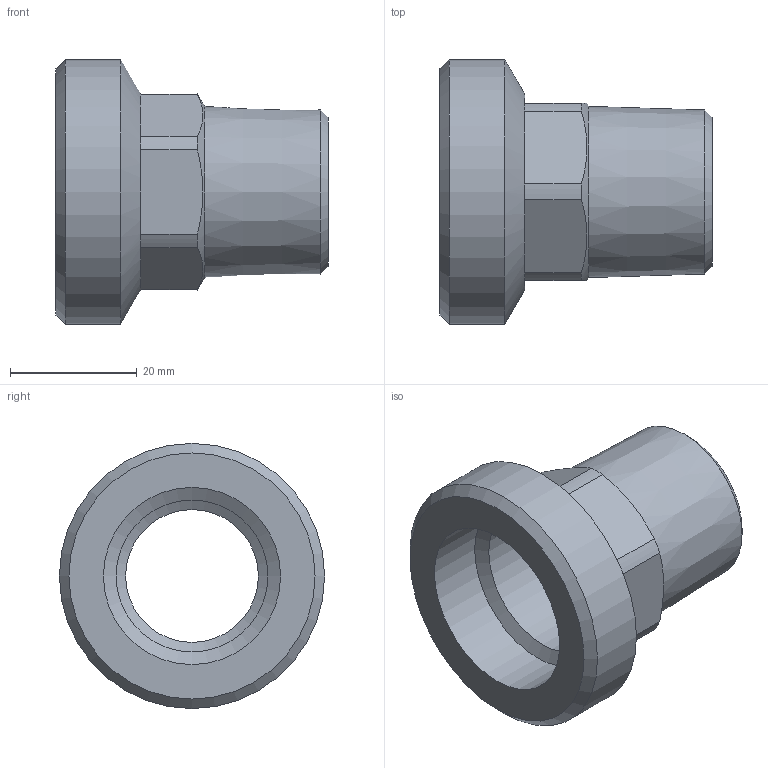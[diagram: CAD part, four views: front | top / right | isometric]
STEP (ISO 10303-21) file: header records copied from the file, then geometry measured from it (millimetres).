
FILE_DESCRIPTION(/* description */ (''),/* implementation_level */ '2;1');
FILE_NAME(/* name */ '\\LG50001\SANHA_Legnica\Engineering\Public\RYSUNKI\SANHA POLSKA\4376G\inventor\14376G_34-114(2).stp',/* time_stamp */ '2016-09-15T13:22:50+02:00',/* author */ ('gomulka'),/* organization */ (''),/* preprocessor_version */ 'ST-DEVELOPER v15.6',/* originating_system */ 'Autodesk Inventor 2015',/* authorisation */ '');
FILE_SCHEMA (('AUTOMOTIVE_DESIGN { 1 0 10303 214 3 1 1 }'));
Length unit declared in the file: millimetre
Products named in the file (1): 14376G_34-114(2)
Bounding box: 43 x 41.91 x 41.91 mm (x, y, z)
Volume: 16096.2 mm3; surface area: 8853.5 mm2
Topology: 1 solids, 1 shells, 31 faces, 67 edges, 38 vertices
Faces by surface type: plane 14, cylinder 10, cone 7
Full cylindrical faces by diameter (mm): 21 x1, 24 x1, 28 x1, 41.91 x1
Entity records: 780 total; most frequent: DIRECTION 142, CARTESIAN_POINT 134, ORIENTED_EDGE 108, AXIS2_PLACEMENT_3D 62, EDGE_CURVE 54, EDGE_LOOP 44, VERTEX_POINT 36, FACE_OUTER_BOUND 31
